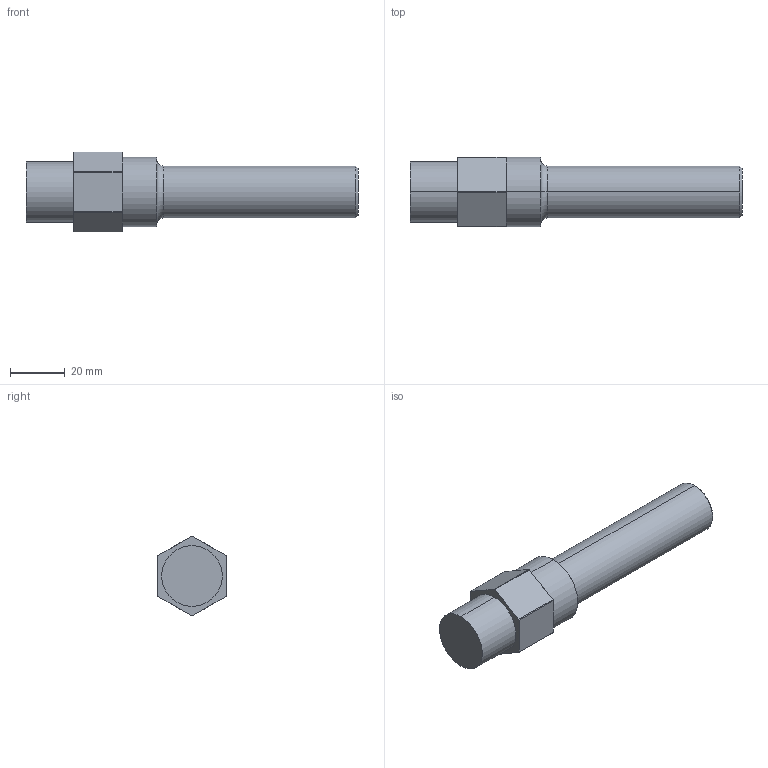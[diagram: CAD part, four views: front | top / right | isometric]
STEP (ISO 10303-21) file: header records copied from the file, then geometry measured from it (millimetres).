
FILE_DESCRIPTION (( 'STEP AP214' ), '1' );
FILE_NAME ('Fitting Tubeout 12.STEP', '2012-09-26T21:41:35', ( '' ), ( '' ), 'SwSTEP 2.0', 'SolidWorks 2012', '' );
FILE_SCHEMA (( 'AUTOMOTIVE_DESIGN' ));
Length unit declared in the file: inch
Products named in the file (1): Fitting Tubeout 12
Bounding box: 121.72 x 25.4 x 29.16 mm (x, y, z)
Volume: 44227.3 mm3; surface area: 9238.9 mm2
Topology: 1 solids, 1 shells, 33 faces, 77 edges, 48 vertices
Faces by surface type: plane 16, cylinder 13, torus 2, cone 2
Entity records: 1028 total; most frequent: DIRECTION 183, CARTESIAN_POINT 159, ORIENTED_EDGE 154, EDGE_CURVE 77, AXIS2_PLACEMENT_3D 72, VERTEX_POINT 48, LINE 39, VECTOR 39
